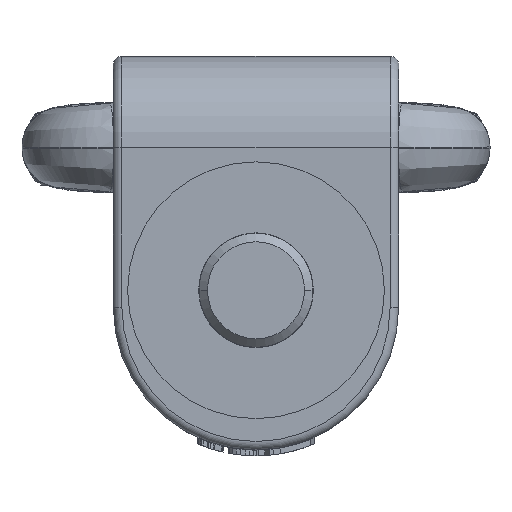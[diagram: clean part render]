
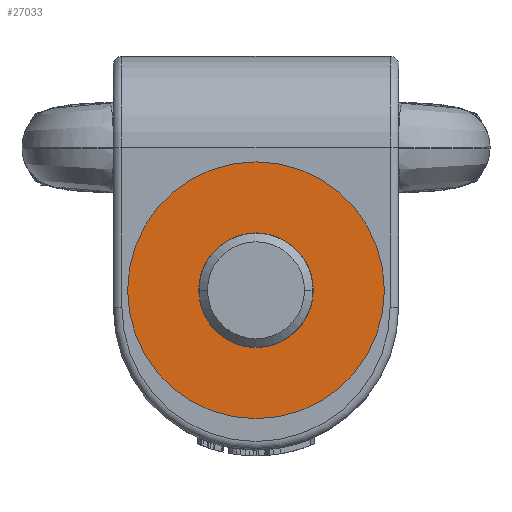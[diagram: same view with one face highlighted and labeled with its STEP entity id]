
A CAD part, front view. The second image highlights one B-rep face of the part: STEP entity #27033.
In plain terms, the highlighted planar face has unit normal (0, -1, 0) as drawn and (0, 0, 1) by its records, which use the part's own axes.
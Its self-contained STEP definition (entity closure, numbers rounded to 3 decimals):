
#26872=CARTESIAN_POINT('',(0.,0.,21.4));
#26873=DIRECTION('',(0.,0.,-1.));
#26874=DIRECTION('',(1.,0.,0.));
#26875=AXIS2_PLACEMENT_3D('',#26872,#26873,#26874);
#26877=CARTESIAN_POINT('',(0.,0.,21.4));
#26878=DIRECTION('',(0.,0.,1.));
#26879=DIRECTION('',(1.,0.,0.));
#26880=AXIS2_PLACEMENT_3D('',#26877,#26878,#26879);
#26882=CARTESIAN_POINT('',(0.,0.,21.4));
#26883=DIRECTION('',(0.,0.,1.));
#26884=DIRECTION('',(1.,0.,0.));
#26885=AXIS2_PLACEMENT_3D('',#26882,#26883,#26884);
#26895=CARTESIAN_POINT('',(0.,0.,21.4));
#26896=DIRECTION('',(0.,0.,-1.));
#26897=DIRECTION('',(1.,0.,0.));
#26898=AXIS2_PLACEMENT_3D('',#26895,#26896,#26897);
#26984=CARTESIAN_POINT('',(22.5,0.,21.4));
#26986=VERTEX_POINT('',#26984);
#26997=CARTESIAN_POINT('',(10.05,0.,21.4));
#26999=VERTEX_POINT('',#26997);
#27000=CARTESIAN_POINT('',(-22.5,0.,21.4));
#27002=VERTEX_POINT('',#27000);
#27013=CARTESIAN_POINT('',(-10.05,0.,21.4));
#27015=VERTEX_POINT('',#27013);
#27016=CARTESIAN_POINT('',(0.,0.,21.4));
#27017=DIRECTION('',(0.,0.,1.));
#27018=DIRECTION('',(-1.,0.,0.));
#27019=AXIS2_PLACEMENT_3D('',#27016,#27017,#27018);
#27020=PLANE('',#27019);
#27022=ORIENTED_EDGE('',*,*,#27021,.F.);
#27024=ORIENTED_EDGE('',*,*,#27023,.T.);
#27025=EDGE_LOOP('',(#27022,#27024));
#27026=FACE_OUTER_BOUND('',#27025,.F.);
#27028=ORIENTED_EDGE('',*,*,#27027,.F.);
#27030=ORIENTED_EDGE('',*,*,#27029,.T.);
#27031=EDGE_LOOP('',(#27028,#27030));
#27032=FACE_BOUND('',#27031,.F.);
#27033=ADVANCED_FACE('',(#27026,#27032),#27020,.T.);
#26876=CIRCLE('',#26875,10.05);
#26881=CIRCLE('',#26880,10.05);
#26886=CIRCLE('',#26885,22.5);
#26899=CIRCLE('',#26898,22.5);
#27021=EDGE_CURVE('',#26986,#27002,#26886,.T.);
#27023=EDGE_CURVE('',#26986,#27002,#26899,.T.);
#27027=EDGE_CURVE('',#26999,#27015,#26876,.T.);
#27029=EDGE_CURVE('',#26999,#27015,#26881,.T.);
